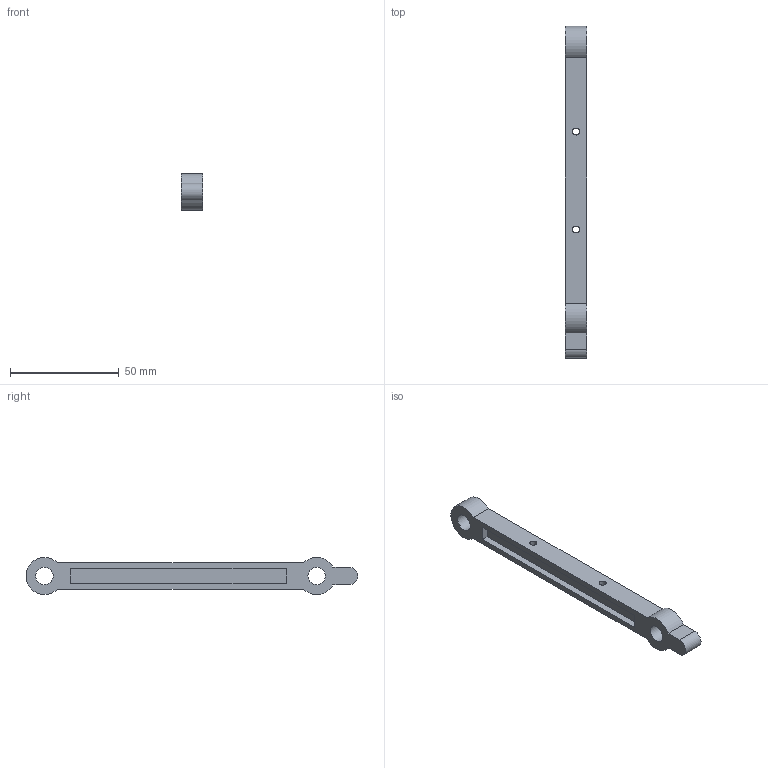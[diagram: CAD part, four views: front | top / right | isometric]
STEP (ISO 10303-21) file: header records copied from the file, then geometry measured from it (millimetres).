
FILE_DESCRIPTION(('Open CASCADE Model'),'2;1');
FILE_NAME('Open CASCADE Shape Model','2026-10-16T00:24:49',('Author'),( 'Open CASCADE'),'Open CASCADE STEP processor 7.9','Open CASCADE 7.9' ,'Unknown');
FILE_SCHEMA(('AUTOMOTIVE_DESIGN { 1 0 10303 214 1 1 1 1 }'));
Length unit declared in the file: millimetre
Products named in the file (1): Open CASCADE STEP translator 7.9 5
Bounding box: 10 x 152.47 x 16.97 mm (x, y, z)
Volume: 13244.5 mm3; surface area: 8729.9 mm2
Topology: 1 solids, 1 shells, 24 faces, 60 edges, 40 vertices
Faces by surface type: plane 16, cylinder 8
Full cylindrical faces by diameter (mm): 3.2 x2, 8 x2
Entity records: 1543 total; most frequent: CARTESIAN_POINT 345, DIRECTION 211, LINE 126, VECTOR 126, ORIENTED_EDGE 120, PCURVE 120, DEFINITIONAL_REPRESENTATION 120, EDGE_CURVE 60
